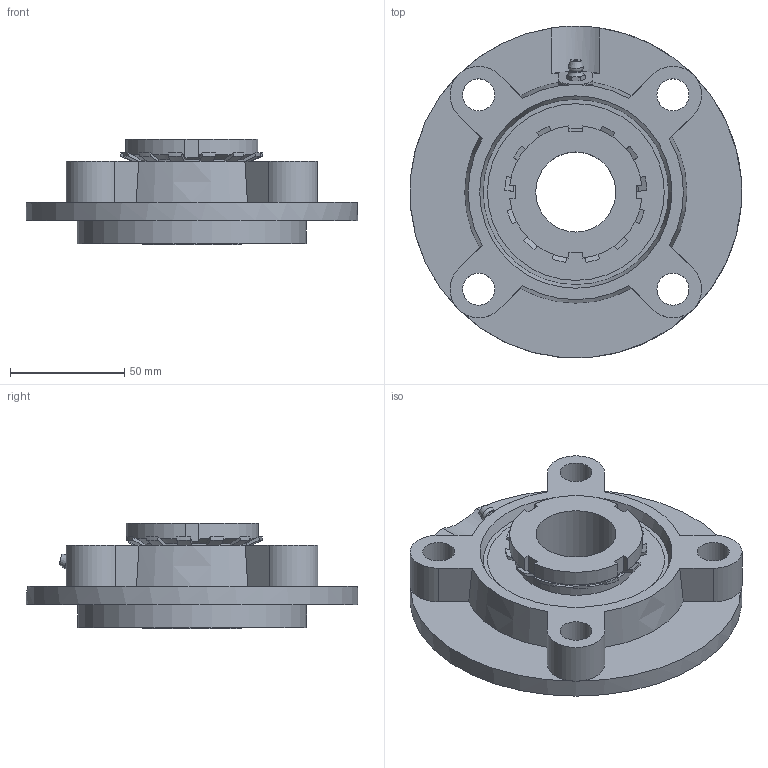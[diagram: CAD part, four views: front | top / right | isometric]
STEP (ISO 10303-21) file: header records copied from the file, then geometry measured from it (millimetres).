
FILE_DESCRIPTION((''),'2;1');
FILE_NAME('\\Ts-tgl068\j-cad-d-base\00.3DCADデータ作成フォルダ\02.フランジ形\UKFC200\UKFC208+H.stp','2014-11-20T16:42:36',('btec_1106_2'),(''),'Autodesk Inventor 2012','Autodesk Inventor 2012','');
FILE_SCHEMA(('AUTOMOTIVE_DESIGN { 1 0 10303 214 1 1 1 1 }'));
Length unit declared in the file: millimetre
Products named in the file (4): UKFC200+H; FC208; UK208; GU1
Assembly tree (3 placements, depth 2):
  UKFC200+H
    FC208
    UK208
    GU1
Bounding box: 144.83 x 144.89 x 46 mm (x, y, z)
Volume: 285812.5 mm3; surface area: 74989.1 mm2
Topology: 3 solids, 3 shells, 182 faces, 482 edges, 313 vertices
Faces by surface type: plane 79, cone 50, cylinder 45, sphere 4, bspline 2, torus 2
Full cylindrical faces by diameter (mm): 5.359 x1, 6.35 x1, 14 x4, 35 x1, 53 x2, 100 x1, 145 x1
Entity records: 5598 total; most frequent: CARTESIAN_POINT 1305, ORIENTED_EDGE 904, DIRECTION 853, EDGE_CURVE 452, AXIS2_PLACEMENT_3D 348, VERTEX_POINT 302, EDGE_LOOP 225, FACE_OUTER_BOUND 182
